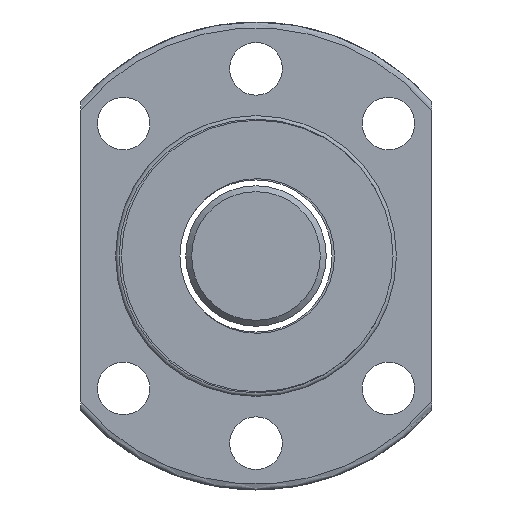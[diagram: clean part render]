
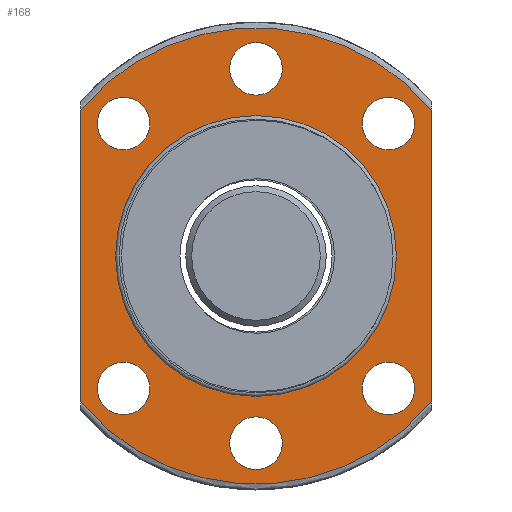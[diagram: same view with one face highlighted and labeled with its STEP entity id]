
A CAD part, left-side view. The second image highlights one B-rep face of the part: STEP entity #168.
In plain terms, the highlighted planar face has unit normal (-1, 0, 0).
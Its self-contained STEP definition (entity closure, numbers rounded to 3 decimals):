
#114=LINE('',#1056,#122);
#115=LINE('',#1057,#123);
#122=VECTOR('',#751,1.);
#123=VECTOR('',#752,1.);
#137=PLANE('',#631);
#168=ADVANCED_FACE('',(#221,#222,#223,#224,#225,#226,#227,#228),#137,.T.);
#221=FACE_BOUND('',#291,.T.);
#222=FACE_BOUND('',#292,.T.);
#223=FACE_BOUND('',#293,.T.);
#224=FACE_BOUND('',#294,.T.);
#225=FACE_BOUND('',#295,.T.);
#226=FACE_BOUND('',#296,.T.);
#227=FACE_BOUND('',#297,.T.);
#228=FACE_BOUND('',#298,.T.);
#291=EDGE_LOOP('',(#384));
#292=EDGE_LOOP('',(#385));
#293=EDGE_LOOP('',(#386));
#294=EDGE_LOOP('',(#387));
#295=EDGE_LOOP('',(#388));
#296=EDGE_LOOP('',(#389));
#297=EDGE_LOOP('',(#390));
#298=EDGE_LOOP('',(#391,#392,#393,#394));
#384=ORIENTED_EDGE('',*,*,#531,.F.);
#385=ORIENTED_EDGE('',*,*,#532,.F.);
#386=ORIENTED_EDGE('',*,*,#533,.F.);
#387=ORIENTED_EDGE('',*,*,#534,.F.);
#388=ORIENTED_EDGE('',*,*,#535,.F.);
#389=ORIENTED_EDGE('',*,*,#536,.F.);
#390=ORIENTED_EDGE('',*,*,#537,.T.);
#391=ORIENTED_EDGE('',*,*,#529,.F.);
#392=ORIENTED_EDGE('',*,*,#538,.T.);
#393=ORIENTED_EDGE('',*,*,#525,.F.);
#394=ORIENTED_EDGE('',*,*,#539,.T.);
#474=VERTEX_POINT('',#959);
#475=VERTEX_POINT('',#960);
#476=VERTEX_POINT('',#1019);
#477=VERTEX_POINT('',#1021);
#478=VERTEX_POINT('',#1043);
#479=VERTEX_POINT('',#1045);
#480=VERTEX_POINT('',#1047);
#481=VERTEX_POINT('',#1049);
#482=VERTEX_POINT('',#1051);
#483=VERTEX_POINT('',#1053);
#484=VERTEX_POINT('',#1055);
#525=EDGE_CURVE('',#474,#475,#570,.T.);
#529=EDGE_CURVE('',#476,#477,#571,.T.);
#531=EDGE_CURVE('',#478,#478,#572,.T.);
#532=EDGE_CURVE('',#479,#479,#573,.T.);
#533=EDGE_CURVE('',#480,#480,#574,.T.);
#534=EDGE_CURVE('',#481,#481,#575,.T.);
#535=EDGE_CURVE('',#482,#482,#576,.T.);
#536=EDGE_CURVE('',#483,#483,#577,.T.);
#537=EDGE_CURVE('',#484,#484,#578,.T.);
#538=EDGE_CURVE('',#476,#475,#114,.T.);
#539=EDGE_CURVE('',#474,#477,#115,.T.);
#570=CIRCLE('',#620,19.5);
#571=CIRCLE('',#622,19.5);
#572=CIRCLE('',#624,2.25);
#573=CIRCLE('',#625,2.25);
#574=CIRCLE('',#626,2.25);
#575=CIRCLE('',#627,2.25);
#576=CIRCLE('',#628,2.25);
#577=CIRCLE('',#629,2.25);
#578=CIRCLE('',#630,12.);
#620=AXIS2_PLACEMENT_3D('',#958,#729,#730);
#622=AXIS2_PLACEMENT_3D('',#1020,#733,#734);
#624=AXIS2_PLACEMENT_3D('',#1042,#737,#738);
#625=AXIS2_PLACEMENT_3D('',#1044,#739,#740);
#626=AXIS2_PLACEMENT_3D('',#1046,#741,#742);
#627=AXIS2_PLACEMENT_3D('',#1048,#743,#744);
#628=AXIS2_PLACEMENT_3D('',#1050,#745,#746);
#629=AXIS2_PLACEMENT_3D('',#1052,#747,#748);
#630=AXIS2_PLACEMENT_3D('',#1054,#749,#750);
#631=AXIS2_PLACEMENT_3D('',#1058,#753,#754);
#729=DIRECTION('',(1.,0.,0.));
#730=DIRECTION('',(0.,1.,0.));
#733=DIRECTION('',(1.,0.,0.));
#734=DIRECTION('',(0.,1.,0.));
#737=DIRECTION('',(-1.,0.,0.));
#738=DIRECTION('',(0.,-1.,0.));
#739=DIRECTION('',(-1.,0.,0.));
#740=DIRECTION('',(0.,-1.,0.));
#741=DIRECTION('',(-1.,0.,0.));
#742=DIRECTION('',(0.,-1.,0.));
#743=DIRECTION('',(-1.,0.,0.));
#744=DIRECTION('',(0.,-1.,0.));
#745=DIRECTION('',(-1.,0.,0.));
#746=DIRECTION('',(0.,-1.,0.));
#747=DIRECTION('',(-1.,0.,0.));
#748=DIRECTION('',(0.,-1.,0.));
#749=DIRECTION('',(1.,0.,0.));
#750=DIRECTION('',(0.,1.,0.));
#751=DIRECTION('',(0.,0.,-1.));
#752=DIRECTION('',(0.,0.,1.));
#753=DIRECTION('',(-1.,0.,0.));
#754=DIRECTION('',(0.,-1.,0.));
#958=CARTESIAN_POINT('',(-30.,0.,0.));
#959=CARTESIAN_POINT('',(-30.,-15.,-12.46));
#960=CARTESIAN_POINT('',(-30.,15.,-12.46));
#1019=CARTESIAN_POINT('',(-30.,15.,12.46));
#1020=CARTESIAN_POINT('',(-30.,0.,0.));
#1021=CARTESIAN_POINT('',(-30.,-15.,12.46));
#1042=CARTESIAN_POINT('',(-30.,11.314,-11.314));
#1043=CARTESIAN_POINT('',(-30.,9.064,-11.314));
#1044=CARTESIAN_POINT('',(-30.,-11.314,-11.314));
#1045=CARTESIAN_POINT('',(-30.,-13.564,-11.314));
#1046=CARTESIAN_POINT('',(-30.,-11.314,11.314));
#1047=CARTESIAN_POINT('',(-30.,-13.564,11.314));
#1048=CARTESIAN_POINT('',(-30.,11.314,11.314));
#1049=CARTESIAN_POINT('',(-30.,9.064,11.314));
#1050=CARTESIAN_POINT('',(-30.,0.,-16.));
#1051=CARTESIAN_POINT('',(-30.,-2.25,-16.));
#1052=CARTESIAN_POINT('',(-30.,0.,16.));
#1053=CARTESIAN_POINT('',(-30.,-2.25,16.));
#1054=CARTESIAN_POINT('',(-30.,0.,0.));
#1055=CARTESIAN_POINT('',(-30.,12.,0.));
#1056=CARTESIAN_POINT('',(-30.,15.,0.));
#1057=CARTESIAN_POINT('',(-30.,-15.,0.));
#1058=CARTESIAN_POINT('',(-30.,19.5,0.));
